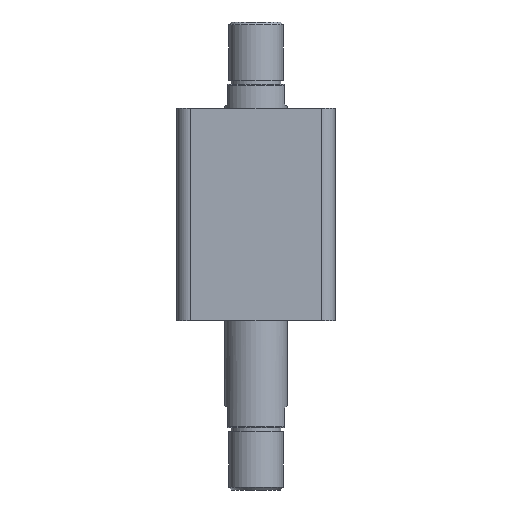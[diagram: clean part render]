
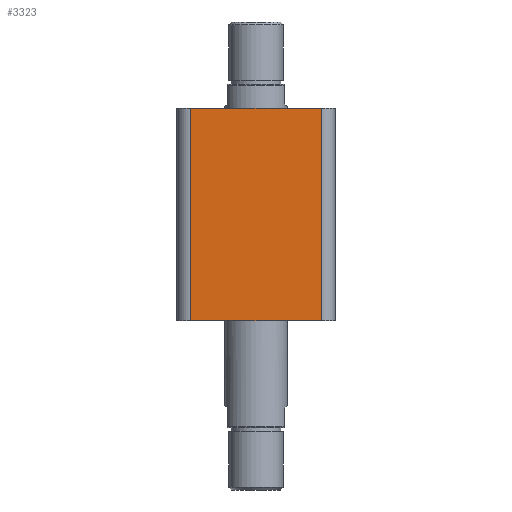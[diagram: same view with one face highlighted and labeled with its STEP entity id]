
A CAD part, front view. The second image highlights one B-rep face of the part: STEP entity #3323.
In plain terms, the highlighted planar face has unit normal (0, -1, 0).
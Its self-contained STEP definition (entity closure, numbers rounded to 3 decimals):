
#9 = CARTESIAN_POINT ( 'NONE',  ( -47., -57., 0. ) ) ;
#227 = VERTEX_POINT ( 'NONE', #9 ) ;
#237 = VERTEX_POINT ( 'NONE', #1866 ) ;
#238 = VERTEX_POINT ( 'NONE', #1953 ) ;
#239 = VERTEX_POINT ( 'NONE', #1879 ) ;
#1111 = AXIS2_PLACEMENT_3D ( 'NONE', #2452, #2468, #2470 ) ;
#1452 = LINE ( 'NONE', #2014, #1463 ) ;
#1458 = LINE ( 'NONE', #2037, #1461 ) ;
#1461 = VECTOR ( 'NONE', #2040, 1000. ) ;
#1462 = LINE ( 'NONE', #2045, #1465 ) ;
#1463 = VECTOR ( 'NONE', #2042, 1000. ) ;
#1464 = LINE ( 'NONE', #2050, #1467 ) ;
#1465 = VECTOR ( 'NONE', #2048, 1000. ) ;
#1467 = VECTOR ( 'NONE', #2053, 1000. ) ;
#1551 = FACE_OUTER_BOUND ( 'NONE', #2696, .T. ) ;
#1866 = CARTESIAN_POINT ( 'NONE',  ( 47., -57., 0. ) ) ;
#1879 = CARTESIAN_POINT ( 'NONE',  ( 47., -57., 153. ) ) ;
#1953 = CARTESIAN_POINT ( 'NONE',  ( -47., -57., 153. ) ) ;
#2014 = CARTESIAN_POINT ( 'NONE',  ( 47., -57., 153. ) ) ;
#2037 = CARTESIAN_POINT ( 'NONE',  ( -57., -57., 0. ) ) ;
#2040 = DIRECTION ( 'NONE',  ( 1., 0., 0. ) ) ;
#2042 = DIRECTION ( 'NONE',  ( 0., 0., 1. ) ) ;
#2045 = CARTESIAN_POINT ( 'NONE',  ( -57., -57., 153. ) ) ;
#2048 = DIRECTION ( 'NONE',  ( 1., 0., 0. ) ) ;
#2050 = CARTESIAN_POINT ( 'NONE',  ( -47., -57., 153. ) ) ;
#2053 = DIRECTION ( 'NONE',  ( 0., 0., -1. ) ) ;
#2452 = CARTESIAN_POINT ( 'NONE',  ( -57., -57., 153. ) ) ;
#2465 = PLANE ( 'NONE',  #1111 ) ;
#2468 = DIRECTION ( 'NONE',  ( 0., 1., 0. ) ) ;
#2470 = DIRECTION ( 'NONE',  ( 0., 0., 1. ) ) ;
#2565 = ORIENTED_EDGE ( 'NONE', *, *, #3261, .F. ) ;
#2566 = ORIENTED_EDGE ( 'NONE', *, *, #3260, .T. ) ;
#2568 = ORIENTED_EDGE ( 'NONE', *, *, #3259, .T. ) ;
#2696 = EDGE_LOOP ( 'NONE', ( #2568, #2566, #2565, #2862 ) ) ;
#2862 = ORIENTED_EDGE ( 'NONE', *, *, #3262, .T. ) ;
#3259 = EDGE_CURVE ( 'NONE', #227, #237, #1458, .T. ) ;
#3260 = EDGE_CURVE ( 'NONE', #237, #239, #1452, .T. ) ;
#3261 = EDGE_CURVE ( 'NONE', #238, #239, #1462, .T. ) ;
#3262 = EDGE_CURVE ( 'NONE', #238, #227, #1464, .T. ) ;
#3323 = ADVANCED_FACE ( 'NONE', ( #1551 ), #2465, .F. ) ;
